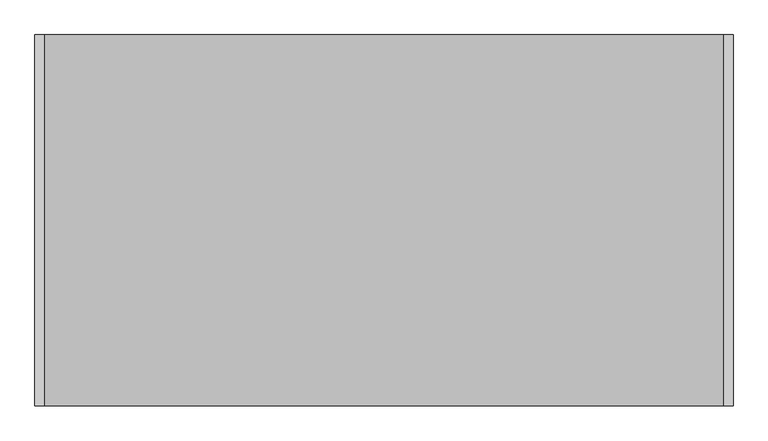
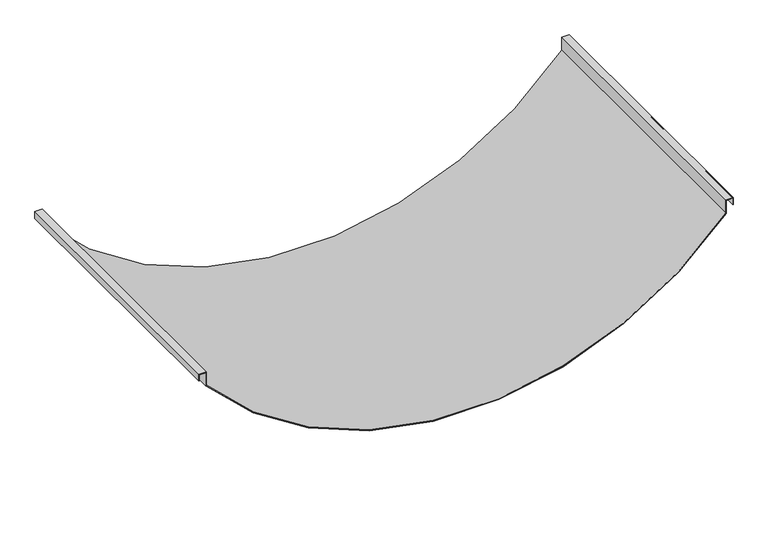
"""IFC4 building model written with IfcOpenShell, lengths in millimetres: proxy geometry, durlum_S5_DOMUS_panel : durlum_S5_DOMUS_panel."""

from ifc_helpers import new_model, si_unit, point, frame, frame_2d, origin, place, context, project, spatial, polyline, circle_curve, trimmed, segment, composite_curve, outline, extrude, source, transform, mapped, element, save


def generic_models_00619762(model_context):
    return source(origin(), model_context, "Body", "SweptSolid", [
        extrude(outline(composite_curve([segment(polyline([(0.3747558, 548.5), (1.8972643, 548.5)]), True, "CONTINUOUS"), segment(trimmed(circle_curve(frame_2d((478.9005, 0.0)), 726.9005), [point((1.8972643, 548.5))], [point((1.8972643, -548.5))], True, "CARTESIAN"), True, "CONTINUOUS"), segment(polyline([(1.8972643, -548.5), (0.3747558, -548.5)]), True, "CONTINUOUS"), segment(trimmed(circle_curve(frame_2d((478.9005, 0.0)), 727.9005), [point((0.3747558, -548.5))], [point((0.3747558, 548.5))], False, "CARTESIAN"), True, "CONTINUOUS")], self_intersect=False)), frame((0.0, -299.75, 0.0), z_axis=(0.0, 1.0, 0.0), x_axis=(0.0, 0.0, 1.0)), (0.0, 0.0, 1.0), 599.5),
        extrude(outline(polyline([(30.0, -549.5), (0.0, -549.5), (0.0, -548.5), (31.0, -548.5), (31.0, -563.5), (16.0, -563.5), (16.0, -562.5), (30.0, -562.5), (30.0, -549.5)])), frame((0.0, -299.75, 0.0), z_axis=(0.0, 1.0, 0.0), x_axis=(0.0, 0.0, 1.0)), (0.0, 0.0, 1.0), 599.5),
        extrude(outline(polyline([(30.0, 549.5), (30.0, 562.5), (16.0, 562.5), (16.0, 563.5), (31.0, 563.5), (31.0, 548.5), (0.0, 548.5), (0.0, 549.5), (30.0, 549.5)])), frame((0.0, -299.75, 0.0), z_axis=(0.0, 1.0, 0.0), x_axis=(0.0, 0.0, 1.0)), (0.0, 0.0, 1.0), 599.5),
        extrude(outline(composite_curve([segment(trimmed(circle_curve(frame_2d((478.9005, 0.0)), 728.9005), [point((0.0, -549.5))], [point((0.0, 549.5))], False, "CARTESIAN"), True, "CONTINUOUS"), segment(polyline([(0.0, 549.5), (1.5234081, 549.5)]), True, "CONTINUOUS"), segment(trimmed(circle_curve(frame_2d((478.9005, 0.0)), 727.9005), [point((1.5234081, 549.5))], [point((1.5234081, -549.5))], True, "CARTESIAN"), True, "CONTINUOUS"), segment(polyline([(1.5234081, -549.5), (0.0, -549.5)]), True, "CONTINUOUS")], self_intersect=False)), frame((0.0, -299.75, 0.0), z_axis=(0.0, 1.0, 0.0), x_axis=(0.0, 0.0, 1.0)), (0.0, 0.0, 1.0), 599.5),
    ])


if __name__ == "__main__":
    model = new_model("IFC4")
    model_context = context("Model", 3, world=origin())
    ifc_project = project(units=[si_unit("LENGTHUNIT", "METRE", prefix="MILLI")], contexts=[model_context])
    site = spatial("IfcSite", under=ifc_project)
    building = spatial("IfcBuilding", under=site)
    placement = place(None, origin())
    generic_models_shape = generic_models_00619762(model_context)
    element("IfcBuildingElementProxy", 1, Name="durlum_S5_DOMUS_panel : durlum_S5_DOMUS_panel", ObjectType="durlum_S5_DOMUS_panel : durlum_S5_DOMUS_panel", at=placement, inside=building, context=model_context, shape_type="MappedRepresentation", body=[
        mapped(generic_models_shape, transform((0.0, 0.0, 0.0), x_axis=(1.0, 0.0, 0.0), y_axis=(0.0, 1.0, 0.0), z_axis=(0.0, 0.0, 1.0))),
    ])
    save(model, "model.ifc")
